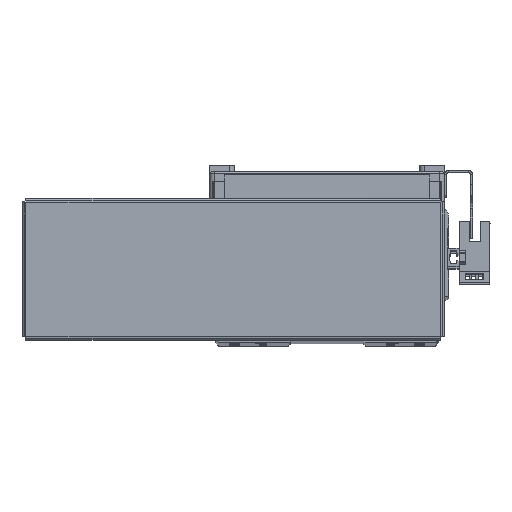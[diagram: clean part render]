
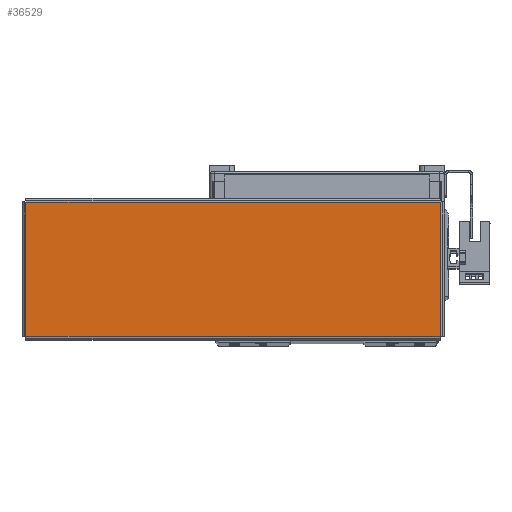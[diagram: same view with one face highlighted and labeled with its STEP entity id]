
A CAD part, top view. The second image highlights one B-rep face of the part: STEP entity #36529.
In plain terms, the highlighted planar face has unit normal (0, 0, 1) as drawn and (0, -1, 0) by its records, which use the part's own axes.
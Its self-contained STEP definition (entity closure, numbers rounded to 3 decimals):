
#8346 = EDGE_LOOP ( 'NONE', ( #27999, #28264, #28288, #28236 ) ) ;
#19768 = AXIS2_PLACEMENT_3D ( 'NONE', #21411, #21379, #21370 ) ;
#21370 = DIRECTION ( 'NONE',  ( 0., 0., 1. ) ) ;
#21379 = DIRECTION ( 'NONE',  ( 0., 1., 0. ) ) ;
#21404 = PLANE ( 'NONE',  #19768 ) ;
#21411 = CARTESIAN_POINT ( 'NONE',  ( 0., -1., 0. ) ) ;
#27999 = ORIENTED_EDGE ( 'NONE', *, *, #50564, .T. ) ;
#28236 = ORIENTED_EDGE ( 'NONE', *, *, #50559, .T. ) ;
#28264 = ORIENTED_EDGE ( 'NONE', *, *, #50550, .T. ) ;
#28288 = ORIENTED_EDGE ( 'NONE', *, *, #50529, .T. ) ;
#30339 = FACE_OUTER_BOUND ( 'NONE', #8346, .T. ) ;
#36529 = ADVANCED_FACE ( 'NONE', ( #30339 ), #21404, .F. ) ;
#50529 = EDGE_CURVE ( 'NONE', #51964, #51914, #57624, .T. ) ;
#50550 = EDGE_CURVE ( 'NONE', #50850, #51964, #57726, .T. ) ;
#50559 = EDGE_CURVE ( 'NONE', #51914, #51995, #57699, .T. ) ;
#50564 = EDGE_CURVE ( 'NONE', #51995, #50850, #57685, .T. ) ;
#50850 = VERTEX_POINT ( 'NONE', #62820 ) ;
#51914 = VERTEX_POINT ( 'NONE', #62784 ) ;
#51964 = VERTEX_POINT ( 'NONE', #62852 ) ;
#51995 = VERTEX_POINT ( 'NONE', #62873 ) ;
#57367 = CARTESIAN_POINT ( 'NONE',  ( 91.893, -1., 29.763 ) ) ;
#57381 = DIRECTION ( 'NONE',  ( -1., 0., 0. ) ) ;
#57414 = CARTESIAN_POINT ( 'NONE',  ( 91.863, -1., -29.793 ) ) ;
#57415 = DIRECTION ( 'NONE',  ( 0., 0., 1. ) ) ;
#57467 = CARTESIAN_POINT ( 'NONE',  ( -91.863, -1., 29.793 ) ) ;
#57469 = DIRECTION ( 'NONE',  ( 1., 0., 0. ) ) ;
#57474 = DIRECTION ( 'NONE',  ( 0., 0., -1. ) ) ;
#57477 = CARTESIAN_POINT ( 'NONE',  ( -91.893, -1., -29.763 ) ) ;
#57624 = LINE ( 'NONE', #57367, #57657 ) ;
#57657 = VECTOR ( 'NONE', #57381, 1000. ) ;
#57669 = VECTOR ( 'NONE', #57415, 1000. ) ;
#57685 = LINE ( 'NONE', #57477, #57729 ) ;
#57699 = LINE ( 'NONE', #57467, #57720 ) ;
#57720 = VECTOR ( 'NONE', #57474, 1000. ) ;
#57726 = LINE ( 'NONE', #57414, #57669 ) ;
#57729 = VECTOR ( 'NONE', #57469, 1000. ) ;
#62784 = CARTESIAN_POINT ( 'NONE',  ( -91.863, -1., 29.763 ) ) ;
#62820 = CARTESIAN_POINT ( 'NONE',  ( 91.863, -1., -29.763 ) ) ;
#62852 = CARTESIAN_POINT ( 'NONE',  ( 91.863, -1., 29.763 ) ) ;
#62873 = CARTESIAN_POINT ( 'NONE',  ( -91.863, -1., -29.763 ) ) ;
